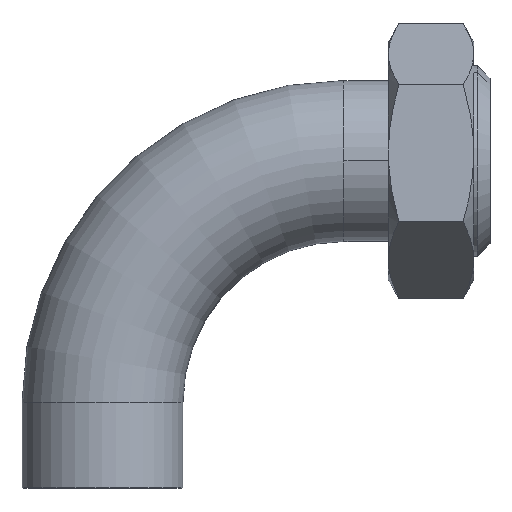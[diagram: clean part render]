
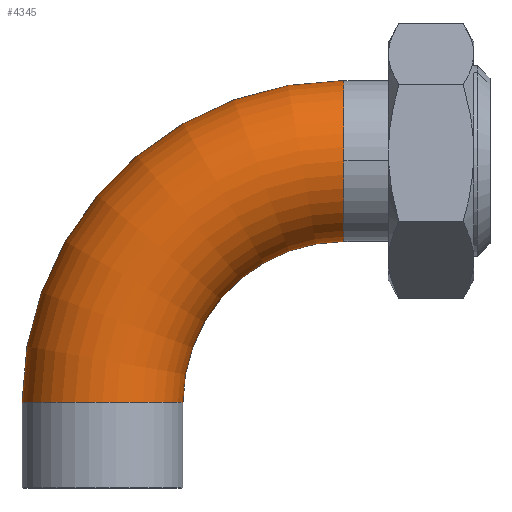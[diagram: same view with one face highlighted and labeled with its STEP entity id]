
A CAD part, top view. The second image highlights one B-rep face of the part: STEP entity #4345.
In plain terms, the highlighted toroidal (fillet/blend) face has major radius 76.2 mm and minor radius 25.4 mm.
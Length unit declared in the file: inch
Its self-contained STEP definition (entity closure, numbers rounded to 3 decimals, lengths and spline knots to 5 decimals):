
#56 = EDGE_CURVE ( 'NONE', #3548, #4572, #815, .T. ) ;
#90 = VERTEX_POINT ( 'NONE', #3022 ) ;
#166 = CARTESIAN_POINT ( 'NONE',  ( 3., 0., 0. ) ) ;
#194 = EDGE_CURVE ( 'NONE', #5073, #3110, #1115, .T. ) ;
#206 = AXIS2_PLACEMENT_3D ( 'NONE', #2825, #5168, #4741 ) ;
#486 = DIRECTION ( 'NONE',  ( 0., -1., 0. ) ) ;
#488 = DIRECTION ( 'NONE',  ( 0., 0., -1. ) ) ;
#815 = CIRCLE ( 'NONE', #1904, 4. ) ;
#939 = CARTESIAN_POINT ( 'NONE',  ( 3., -1., 0. ) ) ;
#944 = ORIENTED_EDGE ( 'NONE', *, *, #1617, .T. ) ;
#1011 = DIRECTION ( 'NONE',  ( -1., 0., 0. ) ) ;
#1042 = ORIENTED_EDGE ( 'NONE', *, *, #2935, .F. ) ;
#1083 = TOROIDAL_SURFACE ( 'NONE', #206, 3., 1. ) ;
#1115 = CIRCLE ( 'NONE', #1506, 1. ) ;
#1130 = DIRECTION ( 'NONE',  ( 0., -1., 0. ) ) ;
#1145 = DIRECTION ( 'NONE',  ( -1., 0., 0. ) ) ;
#1189 = DIRECTION ( 'NONE',  ( 0., 0., -1. ) ) ;
#1506 = AXIS2_PLACEMENT_3D ( 'NONE', #3174, #4088, #486 ) ;
#1617 = EDGE_CURVE ( 'NONE', #3110, #4572, #3310, .T. ) ;
#1904 = AXIS2_PLACEMENT_3D ( 'NONE', #2992, #1189, #4852 ) ;
#2015 = CARTESIAN_POINT ( 'NONE',  ( -1., -3., 0. ) ) ;
#2231 = CIRCLE ( 'NONE', #5344, 1. ) ;
#2243 = AXIS2_PLACEMENT_3D ( 'NONE', #5619, #488, #1011 ) ;
#2825 = CARTESIAN_POINT ( 'NONE',  ( 3., -3., 0. ) ) ;
#2935 = EDGE_CURVE ( 'NONE', #90, #3548, #2231, .T. ) ;
#2992 = CARTESIAN_POINT ( 'NONE',  ( 3., -3., 0. ) ) ;
#3022 = CARTESIAN_POINT ( 'NONE',  ( 1., -3., 0. ) ) ;
#3024 = CARTESIAN_POINT ( 'NONE',  ( 0., -3., 0. ) ) ;
#3110 = VERTEX_POINT ( 'NONE', #4510 ) ;
#3174 = CARTESIAN_POINT ( 'NONE',  ( 3., 0., 0. ) ) ;
#3306 = EDGE_CURVE ( 'NONE', #90, #5073, #3896, .T. ) ;
#3310 = CIRCLE ( 'NONE', #5930, 1. ) ;
#3394 = DIRECTION ( 'NONE',  ( 1., 0., 0. ) ) ;
#3531 = DIRECTION ( 'NONE',  ( 0., -1., 0. ) ) ;
#3548 = VERTEX_POINT ( 'NONE', #2015 ) ;
#3879 = ORIENTED_EDGE ( 'NONE', *, *, #3306, .T. ) ;
#3896 = CIRCLE ( 'NONE', #2243, 2. ) ;
#4088 = DIRECTION ( 'NONE',  ( -1., 0., 0. ) ) ;
#4223 = FACE_OUTER_BOUND ( 'NONE', #5878, .T. ) ;
#4345 = ADVANCED_FACE ( 'NONE', ( #4223 ), #1083, .T. ) ;
#4510 = CARTESIAN_POINT ( 'NONE',  ( 3., 0., 1. ) ) ;
#4572 = VERTEX_POINT ( 'NONE', #4591 ) ;
#4591 = CARTESIAN_POINT ( 'NONE',  ( 3., 1., 0. ) ) ;
#4741 = DIRECTION ( 'NONE',  ( -1., 0., 0. ) ) ;
#4852 = DIRECTION ( 'NONE',  ( -1., 0., 0. ) ) ;
#4929 = ORIENTED_EDGE ( 'NONE', *, *, #56, .F. ) ;
#5039 = ORIENTED_EDGE ( 'NONE', *, *, #194, .T. ) ;
#5073 = VERTEX_POINT ( 'NONE', #939 ) ;
#5168 = DIRECTION ( 'NONE',  ( 0., 0., -1. ) ) ;
#5344 = AXIS2_PLACEMENT_3D ( 'NONE', #3024, #1130, #3394 ) ;
#5619 = CARTESIAN_POINT ( 'NONE',  ( 3., -3., 0. ) ) ;
#5878 = EDGE_LOOP ( 'NONE', ( #4929, #1042, #3879, #5039, #944 ) ) ;
#5930 = AXIS2_PLACEMENT_3D ( 'NONE', #166, #1145, #3531 ) ;
